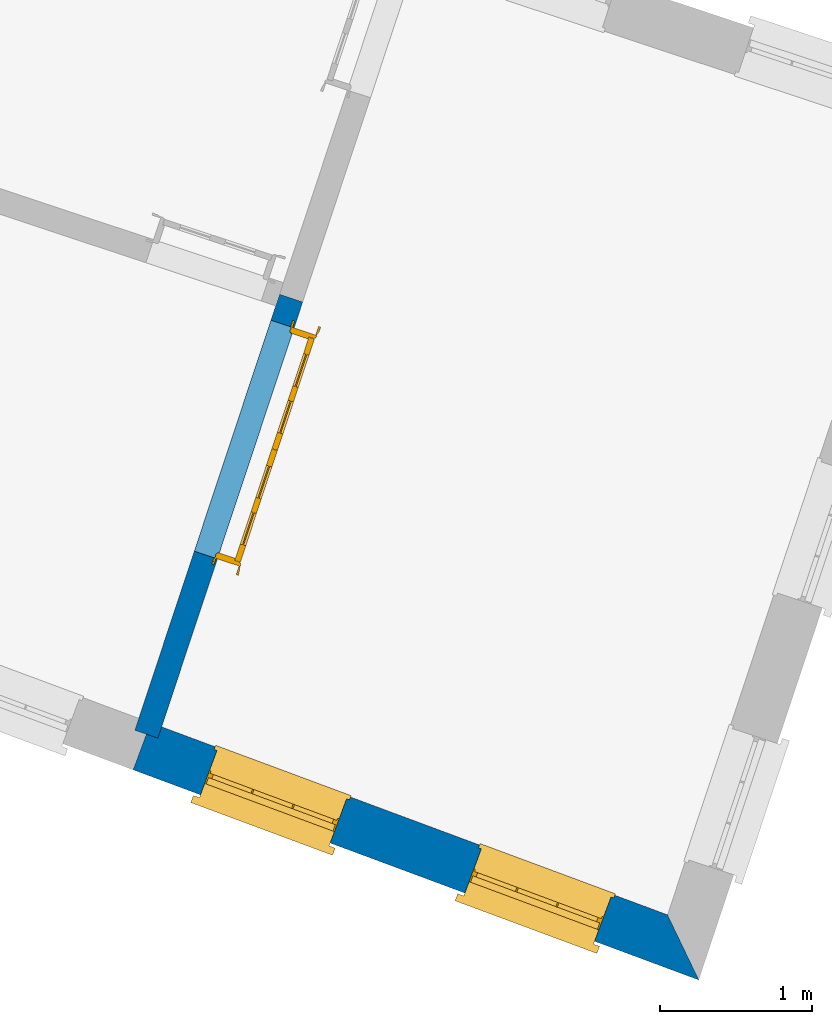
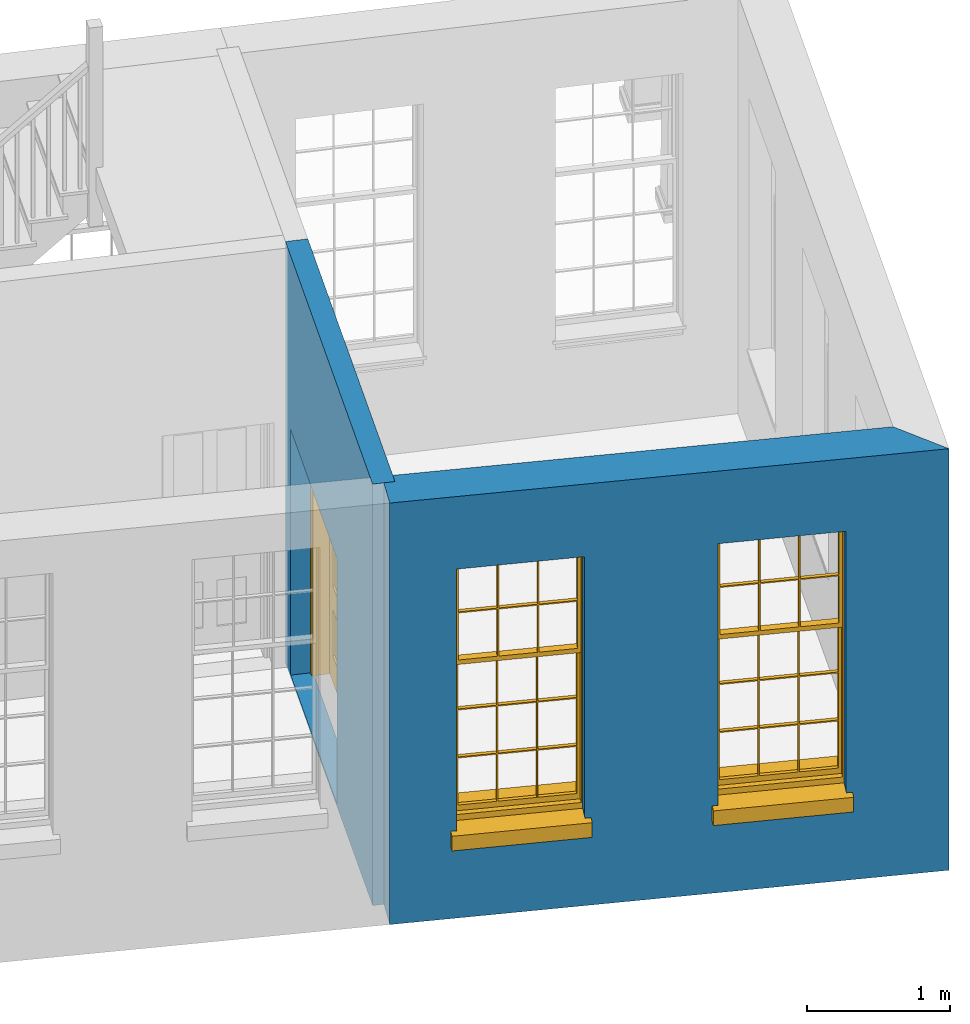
# One storey, part 2 of 6: 2 walls, 2 windows, 1 door, 3 openings.
"""IFC4 building model written with IfcOpenShell, lengths in metres."""

from ifc_helpers import new_model, si_unit, frame, origin, origin_with_axes, place, context, subcontext, project, spatial, polyline, outline, extrude, faceted_brep, source, transform, mapped, material, layer, layer_set, layer_usage, type_object, type_shapes, element, fill, save


model = new_model("IFC4")

# Units and contexts
model_context = context("Model", 3, world=origin_with_axes())
body_context = subcontext(model_context, "Body", "Model", "MODEL_VIEW")
ifc_project = project(units=[si_unit("PLANEANGLEUNIT", "RADIAN"), si_unit("MASSUNIT", "GRAM", prefix="KILO"), si_unit("FORCEUNIT", "NEWTON", prefix="KILO"), si_unit("LENGTHUNIT", "METRE"), si_unit("AREAUNIT", "SQUARE_METRE"), si_unit("VOLUMEUNIT", "CUBIC_METRE")], contexts=[model_context, model_context])

# Sites, building, storey
site_1_placement = place(None, origin_with_axes())
site_1 = spatial("IfcSite", under=ifc_project, at=site_1_placement, Name="Tamar")
site_2_placement = place(site_1_placement, origin_with_axes())
site_2 = spatial("IfcSite", under=site_1, at=site_2_placement, Name="Site plot-18", CompositionType="ELEMENT")
building_placement = place(None, origin_with_axes())
building = spatial("IfcBuilding", under=site_2, at=building_placement, Name="Building plot-18", CompositionType="ELEMENT")
storey_placement = place(None, frame((0.0, 0.0, 26.0), z_axis=(0.0, 0.0, 1.0), x_axis=(1.0, 0.0, 0.0)))
storey = spatial("IfcBuildingStorey", under=building, at=storey_placement, Name="plot-18 0", CompositionType="ELEMENT", Elevation=26.0)

# Wall, openings, windows
ifc_material_1 = material(Name="Masonry")
ifc_layer_1 = layer(ifc_material_1, 0.33, ventilated=False)
ifc_layer_set_1 = layer_set([ifc_layer_1], Name="exterior_0.08_0.25")
ifc_layer_usage_1 = layer_usage(ifc_layer_set_1, "AXIS2", "POSITIVE", -0.25)
wall_type_1 = type_object("IfcWallType", Name="exterior_0.08_0.25", PredefinedType="SOLIDWALL", material=ifc_layer_set_1)
wall_1_placement = place(storey_placement, frame((265.565741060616, 290.234865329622, 0.0), z_axis=(0.0, 0.0, 1.0), x_axis=(0.937393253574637, -0.348272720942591, 0.0)))
wall_1 = element("IfcWall", 1, at=wall_1_placement, inside=storey, type_object=wall_type_1, material=ifc_layer_usage_1, Name="exterior", context=body_context, shape_type="SweptSolid", body=[
    extrude(outline(polyline([(3.85873691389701e-14, 0.0800000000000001), (-4.66752912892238e-14, -0.249999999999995), (3.96882548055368, -0.249999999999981), (3.62698973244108, 0.0799999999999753), (3.85873691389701e-14, 0.0800000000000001)])), origin_with_axes(), (0.0, 0.0, 1.0), 3.6),
])
opening_1_placement = place(wall_1_placement, frame((0.472464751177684, 0.0, 0.75)))
opening_1 = element("IfcOpeningElement", 2, at=opening_1_placement, cuts=wall_1, Name="My Opening", ObjectType="Opening", context=body_context, shape_type="SweptSolid", body=[
    extrude(outline(polyline([(0.0, -0.270000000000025), (0.910000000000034, -0.270000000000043), (0.910000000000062, 1.09999999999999), (2.81441536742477e-14, 1.10000000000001), (0.0, -0.270000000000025)])), origin_with_axes(), (0.0, 0.0, 1.0), 2.23),
])
opening_2_placement = place(wall_1_placement, frame((2.32739425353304, 0.0, 0.75)))
opening_2 = element("IfcOpeningElement", 3, at=opening_2_placement, cuts=wall_1, Name="My Opening", ObjectType="Opening", context=body_context, shape_type="SweptSolid", body=[
    extrude(outline(polyline([(0.0, -0.270000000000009), (0.910000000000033, -0.270000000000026), (0.910000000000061, 1.10000000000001), (2.79776202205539e-14, 1.10000000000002), (0.0, -0.270000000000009)])), origin_with_axes(), (0.0, 0.0, 1.0), 2.23),
])
window_type = type_object("IfcWindowType", Name="sash_big_taller", PartitioningType="DOUBLE_PANEL_HORIZONTAL", PredefinedType="NOTDEFINED")
shared_shape_1 = source(origin(), body_context, "Body", "Brep", [
    faceted_brep([(0.033125, 0.145, 1.385209), (0.01, 0.145, 1.385209), (0.033125, 0.145, 1.786042), (0.876875, 0.145, 1.385209), (0.876875, 0.145, 1.786042), (0.9, 0.145, 1.385209), (0.876875, 0.145, 1.796042), (0.876875, 0.145, 2.196875), (0.9, 0.145, 2.22), (0.033125, 0.145, 2.196875), (0.033125, 0.145, 1.796042), (0.01, 0.145, 2.22), (0.876875, 0.115, 1.786042), (0.876875, 0.115, 1.385209), (0.9, 0.115, 1.347084), (0.033125, 0.115, 2.196875), (0.01, 0.115, 2.22), (0.033125, 0.115, 1.796042), (0.01, 0.115, 1.347084), (0.033125, 0.115, 1.385209), (0.033125, 0.115, 1.786042), (0.876875, 0.115, 2.196875), (0.876875, 0.115, 1.796042), (0.9, 0.115, 2.22), (0.033125, 0.145, 1.347084), (0.01, 0.145, 1.347084), (0.033125, 0.145, 0.94625), (0.876875, 0.145, 1.347084), (0.876875, 0.145, 0.94625), (0.9, 0.145, 1.347084), (0.876875, 0.145, 0.52625), (0.876875, 0.145, 0.125417), (0.9, 0.145, 0.077167), (0.033125, 0.145, 0.125417), (0.033125, 0.145, 0.52625), (0.01, 0.145, 0.077167), (-0.0425, 0.0, 0.01), (-0.0425, -0.05, 0.001667), (0.0, 0.0, 0.01), (0.9525, 0.0, 0.01), (0.91, 0.0, 0.01), (0.9525, -0.05, 0.001667), (-0.02, 0.33, 0.077167), (0.0, 0.33, 0.077167), (-0.02, 0.36, 0.077167), (0.0, 0.19, 0.077167), (0.01, 0.19, 0.077167), (0.91, 0.19, 0.077167), (0.91, 0.33, 0.077167), (0.9, 0.19, 0.077167), (0.93, 0.33, 0.077167), (0.93, 0.36, 0.077167), (0.01, 0.175, 1.385209), (0.9, 0.175, 1.385209), (0.876875, 0.175, 0.125417), (0.876875, 0.175, 0.52625), (0.9, 0.175, 0.077167), (0.876875, 0.175, 0.94625), (0.876875, 0.175, 1.347084), (0.033125, 0.175, 0.125417), (0.01, 0.175, 0.077167), (0.033125, 0.175, 0.52625), (0.033125, 0.175, 1.347084), (0.033125, 0.175, 0.94625), (-0.02, 0.33, 0.052167), (-0.02, 0.36, 0.052167), (0.93, 0.36, 0.052167), (0.93, 0.33, 0.052167), (0.91, 0.33, 0.052167), (0.0, 0.33, 0.052167), (0.91, 0.1, 0.026667), (0.0, 0.1, 0.026667), (-0.0425, -0.05, -0.123333), (0.9525, -0.05, -0.123333), (-0.0425, 0.0, -0.123333), (0.9525, 0.0, -0.123333), (0.01, 0.19, 2.22), (0.9, 0.19, 2.22), (0.0, 0.19, 2.23), (0.91, 0.19, 2.23), (0.01, 0.1, 0.077167), (0.9, 0.1, 0.077167), (0.592292, 0.145, 0.125417), (0.592292, 0.175, 0.125417), (0.317708, 0.175, 0.125417), (0.317708, 0.145, 0.125417), (0.592292, 0.145, 0.53625), (0.317708, 0.145, 0.53625), (0.317708, 0.145, 0.52625), (0.592292, 0.145, 0.52625), (0.592292, 0.175, 0.53625), (0.317708, 0.175, 0.53625), (0.592292, 0.115, 1.796042), (0.592292, 0.145, 1.796042), (0.317708, 0.145, 1.796042), (0.317708, 0.115, 1.796042), (0.317708, 0.115, 1.786042), (0.592292, 0.115, 1.786042), (0.317708, 0.145, 1.786042), (0.592292, 0.145, 1.786042), (0.602292, 0.115, 1.786042), (0.592292, 0.115, 1.385209), (0.602292, 0.115, 1.385209), (0.602292, 0.145, 1.385209), (0.592292, 0.145, 1.385209), (0.602292, 0.145, 1.786042), (0.876875, 0.145, 0.53625), (0.876875, 0.175, 0.53625), (0.602292, 0.175, 0.53625), (0.602292, 0.145, 0.53625), (0.317708, 0.175, 0.52625), (0.307708, 0.175, 0.125417), (0.307708, 0.175, 0.52625), (0.602292, 0.175, 0.52625), (0.602292, 0.175, 0.125417), (0.592292, 0.175, 0.52625), (0.307708, 0.175, 0.53625), (0.033125, 0.175, 0.53625), (0.317708, 0.175, 1.347084), (0.317708, 0.175, 0.94625), (0.307708, 0.175, 0.94625), (0.307708, 0.175, 1.347084), (0.602292, 0.175, 1.347084), (0.602292, 0.175, 0.94625), (0.592292, 0.175, 0.94625), (0.592292, 0.175, 1.347084), (0.307708, 0.145, 0.52625), (0.307708, 0.145, 0.125417), (0.307708, 0.145, 0.53625), (0.033125, 0.145, 0.53625), (0.307708, 0.145, 1.347084), (0.307708, 0.145, 0.94625), (0.592292, 0.145, 1.347084), (0.592292, 0.145, 0.94625), (0.317708, 0.145, 0.94625), (0.317708, 0.145, 1.347084), (0.602292, 0.145, 0.94625), (0.602292, 0.145, 1.347084), (0.602292, 0.145, 0.52625), (0.602292, 0.145, 0.125417), (0.307708, 0.115, 1.796042), (0.307708, 0.115, 1.786042), (0.307708, 0.115, 1.385209), (0.317708, 0.115, 1.385209), (0.317708, 0.115, 2.196875), (0.307708, 0.115, 2.196875), (0.602292, 0.115, 2.196875), (0.592292, 0.115, 2.196875), (0.602292, 0.115, 1.796042), (0.602292, 0.145, 1.796042), (0.307708, 0.145, 1.796042), (0.307708, 0.145, 2.196875), (0.317708, 0.145, 2.196875), (0.592292, 0.145, 2.196875), (0.602292, 0.145, 2.196875), (0.307708, 0.145, 1.786042), (0.317708, 0.145, 1.385209), (0.307708, 0.145, 1.385209), (0.876875, 0.175, 0.93625), (0.033125, 0.175, 0.93625), (0.033125, 0.145, 0.93625), (0.876875, 0.145, 0.93625), (0.91, 0.1, 2.23), (0.9, 0.1, 2.22), (0.01, 0.1, 2.22), (0.0, 0.1, 2.23), (0.91, 0.0, 0.0), (0.0, 0.0, 0.0), (0.91, 0.33, 0.0), (0.0, 0.33, 0.0), (0.317708, 0.145, 0.93625), (0.592292, 0.145, 0.93625), (0.317708, 0.175, 0.93625), (0.307708, 0.175, 0.93625), (0.602292, 0.175, 0.93625), (0.592292, 0.175, 0.93625), (0.307708, 0.145, 0.93625), (0.602292, 0.145, 0.93625)], [[[0, 1, 2]], [[3, 4, 5]], [[6, 7, 8]], [[9, 10, 11]], [[12, 13, 14]], [[15, 16, 17]], [[18, 19, 20]], [[21, 22, 23]], [[24, 25, 26]], [[27, 28, 29]], [[30, 31, 32]], [[33, 34, 35]], [[14, 27, 29]], [[25, 24, 18]], [[36, 37, 38]], [[39, 40, 41]], [[42, 43, 44]], [[45, 46, 43]], [[47, 48, 49]], [[50, 51, 48]], [[1, 0, 52]], [[5, 53, 3]], [[54, 55, 56]], [[57, 58, 53]], [[59, 60, 61]], [[62, 63, 52]], [[48, 43, 46, 49]], [[51, 44, 43, 48]], [[64, 42, 44, 65]], [[65, 44, 51, 66]], [[66, 51, 50, 67]], [[65, 66, 68, 69]], [[60, 56, 49, 46]], [[70, 71, 38, 40]], [[37, 41, 40, 38]], [[37, 72, 73, 41]], [[74, 75, 73, 72]], [[8, 11, 76, 77]], [[76, 78, 79, 77]], [[32, 35, 80, 81]], [[81, 80, 71, 70]], [[82, 83, 84, 85]], [[86, 87, 88, 89]], [[86, 90, 91, 87]], [[92, 93, 94, 95]], [[92, 95, 96, 97]], [[96, 98, 99, 97]], [[100, 97, 101, 102]], [[103, 104, 99, 105]], [[97, 99, 104, 101]], [[102, 103, 105, 100]], [[106, 107, 108, 109]], [[110, 84, 111, 112]], [[113, 114, 83, 115]], [[116, 112, 61, 117]], [[90, 115, 110, 91]], [[118, 119, 120, 121]], [[122, 123, 124, 125]], [[113, 108, 107, 55]], [[126, 112, 111, 127]], [[34, 61, 112, 126]], [[89, 115, 83, 82]], [[88, 110, 115, 89]], [[85, 84, 110, 88]], [[128, 116, 117, 129]], [[130, 121, 120, 131]], [[132, 125, 124, 133]], [[134, 119, 118, 135]], [[136, 123, 122, 137]], [[138, 113, 55, 30]], [[139, 114, 113, 138]], [[138, 30, 106, 109]], [[88, 126, 127, 85]], [[138, 89, 82, 139]], [[137, 132, 133, 136]], [[128, 129, 34, 126]], [[135, 130, 131, 134]], [[140, 17, 20, 141]], [[96, 141, 142, 143]], [[144, 145, 140, 95]], [[146, 147, 92, 148]], [[100, 12, 22, 148]], [[149, 6, 4, 105]], [[94, 150, 151, 152]], [[149, 93, 153, 154]], [[99, 98, 94, 93]], [[155, 2, 10, 150]], [[156, 157, 155, 98]], [[141, 155, 157, 142]], [[20, 2, 155, 141]], [[143, 156, 98, 96]], [[140, 150, 10, 17]], [[145, 151, 150, 140]], [[147, 153, 93, 92]], [[95, 94, 152, 144]], [[22, 6, 149, 148]], [[148, 149, 154, 146]], [[100, 105, 4, 12]], [[109, 86, 89, 138]], [[108, 113, 115, 90]], [[91, 110, 112, 116]], [[87, 128, 126, 88]], [[97, 100, 148, 92]], [[141, 96, 95, 140]], [[98, 155, 150, 94]], [[105, 99, 93, 149]], [[143, 101, 104, 156]], [[135, 118, 125, 132]], [[144, 152, 153, 147]], [[127, 111, 59, 33]], [[15, 9, 151, 145]], [[146, 154, 7, 21]], [[31, 54, 114, 139]], [[36, 74, 72, 37]], [[39, 41, 73, 75]], [[18, 14, 101, 143]], [[23, 16, 144, 147]], [[83, 56, 60, 84]], [[52, 53, 125, 118]], [[53, 52, 156, 104]], [[11, 8, 153, 152]], [[14, 18, 135, 132]], [[2, 1, 11, 10]], [[8, 5, 4, 6]], [[57, 53, 56, 158]], [[60, 52, 63, 159]], [[26, 25, 35, 160]], [[32, 29, 28, 161]], [[14, 23, 22, 12]], [[18, 20, 17, 16]], [[19, 0, 2, 20]], [[17, 10, 9, 15]], [[12, 4, 3, 13]], [[21, 7, 6, 22]], [[27, 58, 57, 28]], [[30, 55, 54, 31]], [[33, 59, 61, 34]], [[26, 63, 62, 24]], [[5, 8, 77, 53]], [[76, 11, 1, 52]], [[46, 45, 78, 76]], [[49, 77, 79, 47]], [[70, 162, 163, 81]], [[71, 80, 164, 165]], [[19, 142, 157, 0]], [[102, 13, 3, 103]], [[121, 130, 24, 62]], [[29, 32, 81, 14]], [[80, 35, 25, 18]], [[60, 46, 76, 52]], [[77, 49, 56, 53]], [[23, 14, 81, 163]], [[16, 164, 80, 18]], [[35, 85, 127]], [[127, 33, 35]], [[139, 82, 32]], [[32, 31, 139]], [[32, 82, 85, 35]], [[102, 101, 14]], [[14, 13, 102]], [[18, 143, 142]], [[142, 19, 18]], [[146, 21, 23]], [[23, 147, 146]], [[16, 15, 145]], [[145, 144, 16]], [[11, 152, 151]], [[151, 9, 11]], [[154, 153, 8]], [[8, 7, 154]], [[23, 163, 164, 16]], [[162, 165, 164, 163]], [[52, 118, 121]], [[121, 62, 52]], [[125, 53, 122]], [[58, 122, 53]], [[27, 137, 122, 58]], [[56, 83, 114]], [[114, 54, 56]], [[111, 84, 60]], [[60, 59, 111]], [[137, 27, 14]], [[14, 132, 137]], [[130, 135, 18]], [[18, 24, 130]], [[157, 156, 52]], [[52, 0, 157]], [[103, 3, 53]], [[53, 104, 103]], [[79, 78, 165, 162]], [[78, 45, 71, 165]], [[162, 70, 47, 79]], [[166, 75, 74, 167]], [[68, 66, 67]], [[48, 68, 67, 50]], [[69, 64, 65]], [[42, 64, 69, 43]], [[69, 68, 168, 169]], [[70, 68, 48, 47]], [[166, 168, 68, 70]], [[43, 69, 71, 45]], [[69, 169, 167, 71]], [[168, 166, 167, 169]], [[38, 167, 74, 36]], [[71, 167, 38]], [[39, 75, 166, 40]], [[40, 166, 70]], [[133, 134, 170, 171]], [[133, 124, 119, 134]], [[28, 57, 123, 136]], [[172, 91, 116, 173]], [[174, 108, 90, 175]], [[120, 173, 159, 63]], [[124, 175, 172, 119]], [[174, 123, 57, 158]], [[176, 173, 116, 128]], [[160, 159, 173, 176]], [[171, 175, 90, 86]], [[170, 172, 175, 171]], [[87, 91, 172, 170]], [[131, 120, 63, 26]], [[177, 174, 158, 161]], [[109, 108, 174, 177]], [[177, 161, 28, 136]], [[170, 176, 128, 87]], [[177, 171, 86, 109]], [[131, 26, 160, 176]], [[136, 133, 171, 177]], [[123, 174, 175, 124]], [[119, 172, 173, 120]], [[134, 131, 176, 170]], [[129, 117, 159, 160]], [[161, 158, 107, 106]], [[35, 34, 129]], [[35, 129, 160]], [[32, 106, 30]], [[32, 161, 106]], [[56, 55, 107]], [[56, 107, 158]], [[60, 117, 61]], [[60, 159, 117]]]),
])
type_shapes(window_type, [shared_shape_1])
window_1_placement = place(storey_placement, frame((265.914592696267, 289.817222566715, 0.75), z_axis=(0.0, 0.0, 1.0), x_axis=(0.853027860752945, -0.316928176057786, 0.0)))
window_1 = element("IfcWindow", 4, at=window_1_placement, inside=storey, type_object=window_type, Name="living street window", OverallHeight=2.23, OverallWidth=0.91, context=body_context, shape_type="MappedRepresentation", body=[
    mapped(shared_shape_1, transform((0.0, 0.0, 0.0), scale=1.0)),
])
fill(opening_1, window_1)
window_2_placement = place(storey_placement, frame((267.653391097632, 289.171201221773, 0.75), z_axis=(0.0, 0.0, 1.0), x_axis=(0.853027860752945, -0.316928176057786, 0.0)))
window_2 = element("IfcWindow", 5, at=window_2_placement, inside=storey, type_object=window_type, Name="living street window", OverallHeight=2.23, OverallWidth=0.91, context=body_context, shape_type="MappedRepresentation", body=[
    mapped(shared_shape_1, transform((0.0, 0.0, 0.0), scale=1.0)),
])
fill(opening_2, window_2)

# Wall, opening, door
ifc_material_2 = material(Name="Masonry")
ifc_layer_2 = layer(ifc_material_2, 0.16, ventilated=False)
ifc_layer_set_2 = layer_set([ifc_layer_2], Name="interior_0.08_0.08")
ifc_layer_usage_2 = layer_usage(ifc_layer_set_2, "AXIS2", "POSITIVE", -0.08)
wall_type_2 = type_object("IfcWallType", Name="interior_0.08_0.08", PredefinedType="SOLIDWALL", material=ifc_layer_set_2)
wall_2_placement = place(storey_placement, frame((266.51771859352, 293.102772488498, 0.0), z_axis=(0.0, 0.0, 1.0), x_axis=(-0.315038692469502, -0.949078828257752, 0.0)))
wall_2 = element("IfcWall", 6, at=wall_2_placement, inside=storey, type_object=wall_type_2, material=ifc_layer_usage_2, Name="interior", context=body_context, shape_type="SweptSolid", body=[
    extrude(outline(polyline([(1.27412785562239e-16, 0.0799999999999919), (-1.72737096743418e-16, -0.0799999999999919), (3.02177972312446, -0.0799999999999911), (3.02177972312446, 0.0799999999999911), (1.27412785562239e-16, 0.0799999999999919)])), origin_with_axes(), (0.0, 0.0, 1.0), 3.6),
])
opening_3_placement = place(wall_2_placement, frame((0.180000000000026, 0.0, 0.0199999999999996)))
opening_3 = element("IfcOpeningElement", 7, at=opening_3_placement, cuts=wall_2, Name="My Opening", ObjectType="Opening", context=body_context, shape_type="SweptSolid", body=[
    extrude(outline(polyline([(0.0, -0.0999999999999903), (1.60000000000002, -0.0999999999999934), (1.59999999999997, 1.10000000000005), (-5.11257702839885e-14, 1.10000000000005), (0.0, -0.0999999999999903)])), origin_with_axes(), (0.0, 0.0, 1.0), 2.1),
])
door_type = type_object("IfcDoorType", Name="door_inside_double", OperationType="SINGLE_SWING_LEFT", PredefinedType="NOTDEFINED")
shared_shape_2 = source(origin(), body_context, "Body", "Brep", [
    faceted_brep([(0.14, 0.307, 1.895), (0.14, 0.307, 0.82), (0.363, 0.307, 0.82), (0.363, 0.307, 1.895), (0.14, 0.292, 1.895), (0.14, 0.292, 0.82), (0.363, 0.292, 0.82), (0.363, 0.292, 1.895), (0.027, 0.292, 1.895), (0.027, 0.292, 0.82), (0.363, 0.292, 0.62), (0.14, 0.292, 0.62), (0.463, 0.292, 0.82), (0.463, 0.292, 1.895), (0.363, 0.292, 2.073), (0.14, 0.292, 2.073), (0.027, 0.292, 2.073), (0.027, 0.33, 1.895), (0.027, 0.33, 0.82), (0.027, 0.292, 0.62), (0.463, 0.292, 0.62), (0.14, 0.307, 0.62), (0.363, 0.307, 0.62), (0.463, 0.307, 0.82), (0.463, 0.307, 1.895), (0.463, 0.292, 2.073), (0.14, 0.33, 2.073), (0.363, 0.33, 2.073), (0.027, 0.33, 2.073), (0.14, 0.33, 1.895), (0.14, 0.33, 0.82), (0.027, 0.33, 0.62), (0.027, 0.292, 0.225), (0.14, 0.292, 0.225), (0.363, 0.292, 0.225), (0.463, 0.292, 0.225), (0.686, 0.292, 0.62), (0.686, 0.292, 0.82), (0.14, 0.307, 0.225), (0.363, 0.307, 0.225), (0.686, 0.307, 0.82), (0.686, 0.307, 1.895), (0.686, 0.292, 1.895), (0.686, 0.292, 2.073), (0.463, 0.33, 2.073), (0.363, 0.33, 1.895), (0.14, 0.315, 1.895), (0.14, 0.315, 0.82), (0.14, 0.33, 0.62), (0.027, 0.33, 0.225), (0.027, 0.292, 0.0), (0.14, 0.292, 0.0), (0.363, 0.292, 0.0), (0.463, 0.292, 0.0), (0.463, 0.307, 0.225), (0.463, 0.307, 0.62), (0.686, 0.307, 0.62), (0.799, 0.292, 0.62), (0.799, 0.292, 0.82), (0.799, 0.292, 1.895), (0.799, 0.292, 2.073), (0.686, 0.33, 2.073), (0.463, 0.33, 1.895), (0.363, 0.315, 1.895), (0.363, 0.315, 0.82), (0.363, 0.33, 0.82), (0.363, 0.33, 0.62), (0.14, 0.33, 0.225), (0.027, 0.33, 0.0), (0.14, 0.33, 0.0), (0.363, 0.33, 0.0), (0.463, 0.33, 0.0), (0.686, 0.292, 0.0), (0.686, 0.292, 0.225), (0.686, 0.307, 0.225), (0.799, 0.292, 0.225), (0.799, 0.33, 0.62), (0.799, 0.33, 0.82), (0.799, 0.33, 1.895), (0.799, 0.33, 2.073), (0.686, 0.33, 1.895), (0.463, 0.33, 0.82), (0.463, 0.33, 0.62), (0.363, 0.315, 0.62), (0.14, 0.315, 0.62), (0.14, 0.315, 0.225), (0.363, 0.33, 0.225), (0.463, 0.33, 0.225), (0.686, 0.33, 0.0), (0.799, 0.292, 0.0), (0.799, 0.33, 0.225), (0.686, 0.33, 0.62), (0.686, 0.33, 0.82), (0.686, 0.315, 1.895), (0.463, 0.315, 1.895), (0.463, 0.315, 0.82), (0.363, 0.315, 0.225), (0.686, 0.33, 0.225), (0.799, 0.33, 0.0), (0.686, 0.315, 0.82), (0.463, 0.315, 0.62), (0.463, 0.315, 0.225), (0.686, 0.315, 0.62), (0.686, 0.315, 0.225), (1.46, 0.33, 1.895), (1.237, 0.33, 1.895), (1.237, 0.33, 2.073), (1.46, 0.33, 2.073), (1.46, 0.315, 1.895), (1.237, 0.315, 1.895), (1.137, 0.33, 1.895), (1.137, 0.33, 2.073), (1.237, 0.292, 2.073), (1.46, 0.292, 2.073), (1.573, 0.33, 1.895), (1.573, 0.33, 2.073), (1.46, 0.33, 0.82), (1.46, 0.315, 0.82), (1.237, 0.315, 0.82), (1.237, 0.33, 0.82), (1.137, 0.33, 0.82), (0.914, 0.33, 2.073), (0.914, 0.33, 1.895), (1.137, 0.292, 2.073), (1.237, 0.292, 1.895), (1.46, 0.292, 1.895), (1.573, 0.292, 2.073), (1.573, 0.33, 0.82), (1.573, 0.292, 1.895), (1.237, 0.33, 0.62), (1.137, 0.33, 0.62), (1.137, 0.315, 0.82), (1.137, 0.315, 1.895), (0.914, 0.292, 2.073), (0.914, 0.315, 1.895), (0.801, 0.33, 2.073), (0.801, 0.33, 1.895), (1.137, 0.292, 1.895), (1.237, 0.307, 1.895), (1.46, 0.307, 1.895), (1.573, 0.292, 0.82), (1.573, 0.33, 0.62), (1.46, 0.33, 0.62), (1.237, 0.33, 0.225), (1.137, 0.33, 0.225), (0.914, 0.33, 0.82), (0.914, 0.33, 0.62), (0.914, 0.315, 0.82), (0.801, 0.292, 2.073), (0.914, 0.292, 1.895), (0.801, 0.33, 0.82), (0.801, 0.292, 1.895), (1.137, 0.292, 0.82), (1.237, 0.292, 0.82), (1.237, 0.307, 0.82), (1.46, 0.307, 0.82), (1.46, 0.292, 0.82), (1.573, 0.292, 0.62), (1.573, 0.33, 0.225), (1.46, 0.33, 0.225), (1.46, 0.315, 0.62), (1.237, 0.315, 0.62), (1.237, 0.33, 0.0), (1.137, 0.33, 0.0), (1.137, 0.315, 0.225), (1.137, 0.315, 0.62), (1.237, 0.315, 0.225), (0.914, 0.315, 0.62), (0.801, 0.33, 0.62), (0.914, 0.307, 1.895), (1.137, 0.307, 1.895), (0.801, 0.292, 0.82), (1.137, 0.292, 0.62), (1.237, 0.292, 0.62), (1.137, 0.307, 0.82), (1.46, 0.292, 0.62), (1.573, 0.292, 0.225), (1.573, 0.33, 0.0), (1.46, 0.33, 0.0), (1.46, 0.315, 0.225), (1.237, 0.292, 0.0), (1.137, 0.292, 0.0), (0.914, 0.33, 0.225), (0.914, 0.33, 0.0), (0.914, 0.315, 0.225), (0.801, 0.33, 0.225), (0.801, 0.292, 0.62), (0.914, 0.292, 0.82), (0.914, 0.307, 0.82), (1.137, 0.292, 0.225), (1.237, 0.292, 0.225), (0.914, 0.292, 0.62), (1.46, 0.292, 0.225), (1.573, 0.292, 0.0), (1.46, 0.292, 0.0), (0.914, 0.292, 0.0), (0.801, 0.33, 0.0), (0.801, 0.292, 0.225), (1.237, 0.307, 0.225), (1.237, 0.307, 0.62), (1.137, 0.307, 0.62), (1.137, 0.307, 0.225), (1.46, 0.307, 0.62), (0.914, 0.307, 0.62), (1.46, 0.307, 0.225), (0.914, 0.292, 0.225), (0.801, 0.292, 0.0), (0.914, 0.307, 0.225), (0.02, 0.335, 0.0), (0.005, 0.34, 0.0), (0.005, 0.34, 2.095), (0.02, 0.335, 2.08), (0.02, 0.33, 0.0), (0.0, 0.335, 0.0), (0.0, 0.335, 2.1), (1.595, 0.34, 2.095), (1.58, 0.335, 2.08), (0.02, 0.33, 2.08), (0.0, 0.33, 0.0), (-0.032, 0.345, 0.0), (-0.032, 0.345, 2.132), (1.6, 0.335, 2.1), (1.595, 0.34, 0.0), (1.58, 0.335, 0.0), (1.58, 0.33, 2.08), (0.025, 0.33, 0.0), (0.025, 0.33, 2.075), (-0.04, 0.34, 0.0), (0.025, 0.29, 0.0), (0.0, 0.17, 0.0), (-0.04, 0.34, 2.14), (1.632, 0.345, 2.132), (1.6, 0.335, 0.0), (1.58, 0.33, 0.0), (1.575, 0.33, 2.075), (0.025, 0.29, 2.075), (-0.06, 0.33, 0.0), (0.035, 0.17, 0.0), (0.0, 0.17, 2.1), (0.0, 0.33, 2.1), (-0.04, 0.345, 0.0), (-0.04, 0.345, 2.14), (1.64, 0.34, 2.14), (1.632, 0.345, 0.0), (1.6, 0.33, 0.0), (1.575, 0.33, 0.0), (1.575, 0.29, 2.075), (0.04, 0.29, 0.0), (0.04, 0.29, 2.06), (-0.06, 0.345, 0.0), (-0.06, 0.33, 2.16), (0.015, 0.165, 0.0), (0.04, 0.17, 0.0), (-0.045, 0.17, 2.145), (-0.045, 0.17, 0.0), (1.6, 0.17, 2.1), (1.6, 0.33, 2.1), (-0.06, 0.345, 2.16), (1.64, 0.345, 2.14), (1.64, 0.34, 0.0), (1.6, 0.17, 0.0), (1.575, 0.29, 0.0), (1.56, 0.29, 2.06), (0.04, 0.17, 2.06), (1.66, 0.33, 2.16), (-0.017, 0.155, 0.0), (-0.025, 0.16, 0.0), (0.02, 0.16, 0.0), (0.035, 0.165, 0.0), (0.035, 0.17, 2.065), (1.645, 0.17, 2.145), (-0.045, 0.155, 2.145), (-0.045, 0.155, 0.0), (1.66, 0.345, 2.16), (1.64, 0.345, 0.0), (1.66, 0.33, 0.0), (1.565, 0.17, 0.0), (1.56, 0.29, 0.0), (1.56, 0.17, 2.06), (-0.017, 0.155, 2.117), (-0.025, 0.16, 2.125), (0.015, 0.165, 2.085), (0.02, 0.16, 2.08), (0.035, 0.165, 2.065), (1.565, 0.17, 2.065), (1.645, 0.17, 0.0), (1.645, 0.155, 2.145), (-0.025, 0.155, 0.0), (1.66, 0.345, 0.0), (1.585, 0.165, 0.0), (1.56, 0.17, 0.0), (1.617, 0.155, 2.117), (1.625, 0.16, 2.125), (-0.025, 0.155, 2.125), (1.585, 0.165, 2.085), (1.58, 0.16, 2.08), (1.565, 0.165, 2.065), (1.625, 0.16, 0.0), (1.645, 0.155, 0.0), (1.625, 0.155, 2.125), (1.617, 0.155, 0.0), (1.565, 0.165, 0.0), (1.58, 0.16, 0.0), (1.625, 0.155, 0.0)], [[[0, 1, 2, 3]], [[1, 0, 4, 5]], [[2, 1, 5, 6]], [[6, 7, 3, 2]], [[7, 4, 0, 3]], [[4, 8, 9, 5]], [[10, 6, 5, 11]], [[6, 12, 13, 7]], [[14, 15, 4, 7]], [[15, 16, 8, 4]], [[9, 8, 17, 18]], [[5, 9, 19, 11]], [[10, 20, 12, 6]], [[10, 11, 21, 22]], [[13, 12, 23, 24]], [[7, 13, 25, 14]], [[26, 15, 14, 27]], [[28, 16, 15, 26]], [[8, 16, 28, 17]], [[17, 29, 30, 18]], [[18, 31, 19, 9]], [[11, 19, 32, 33]], [[34, 35, 20, 10]], [[20, 36, 37, 12]], [[11, 33, 38, 21]], [[39, 22, 21, 38]], [[34, 10, 22, 39]], [[12, 37, 40, 23]], [[24, 23, 40, 41]], [[42, 13, 24, 41]], [[13, 42, 43, 25]], [[14, 25, 44, 27]], [[26, 27, 45, 29]], [[28, 26, 29, 17]], [[30, 29, 46, 47]], [[18, 30, 48, 31]], [[31, 49, 32, 19]], [[33, 32, 50, 51]], [[52, 53, 35, 34]], [[20, 35, 54, 55]], [[36, 20, 55, 56]], [[36, 57, 58, 37]], [[33, 34, 39, 38]], [[37, 42, 41, 40]], [[42, 59, 60, 43]], [[44, 25, 43, 61]], [[62, 45, 27, 44]], [[29, 45, 63, 46]], [[46, 63, 64, 47]], [[65, 30, 47, 64]], [[30, 65, 66, 48]], [[31, 48, 67, 49]], [[68, 50, 32, 49]], [[68, 69, 51, 50]], [[34, 33, 51, 52]], [[53, 52, 70, 71]], [[53, 72, 73, 35]], [[35, 73, 74, 54]], [[55, 54, 74, 56]], [[73, 36, 56, 74]], [[73, 75, 57, 36]], [[57, 76, 77, 58]], [[37, 58, 59, 42]], [[78, 79, 60, 59]], [[60, 79, 61, 43]], [[80, 62, 44, 61]], [[81, 65, 45, 62]], [[45, 65, 64, 63]], [[82, 66, 65, 81]], [[48, 66, 83, 84]], [[67, 48, 84, 85]], [[49, 67, 69, 68]], [[52, 51, 69, 70]], [[71, 70, 86, 87]], [[72, 53, 71, 88]], [[72, 89, 75, 73]], [[75, 90, 76, 57]], [[76, 91, 92, 77]], [[78, 59, 58, 77]], [[78, 80, 61, 79]], [[62, 80, 93, 94]], [[81, 62, 94, 95]], [[87, 86, 66, 82]], [[91, 82, 81, 92]], [[66, 86, 96, 83]], [[84, 83, 96, 85]], [[86, 67, 85, 96]], [[67, 86, 70, 69]], [[88, 71, 87, 97]], [[89, 72, 88, 98]], [[89, 98, 90, 75]], [[90, 97, 91, 76]], [[80, 78, 77, 92]], [[80, 92, 99, 93]], [[99, 95, 94, 93]], [[92, 81, 95, 99]], [[87, 82, 100, 101]], [[82, 91, 102, 100]], [[97, 87, 101, 103]], [[98, 88, 97, 90]], [[91, 97, 103, 102]], [[103, 101, 100, 102]], [[104, 105, 106, 107]], [[105, 104, 108, 109]], [[105, 110, 111, 106]], [[106, 112, 113, 107]], [[114, 104, 107, 115]], [[104, 116, 117, 108]], [[117, 118, 109, 108]], [[119, 105, 109, 118]], [[119, 120, 110, 105]], [[121, 111, 110, 122]], [[123, 112, 106, 111]], [[124, 125, 113, 112]], [[126, 115, 107, 113]], [[104, 114, 127, 116]], [[114, 115, 126, 128]], [[116, 119, 118, 117]], [[129, 130, 120, 119]], [[110, 120, 131, 132]], [[121, 133, 123, 111]], [[122, 110, 132, 134]], [[135, 121, 122, 136]], [[137, 124, 112, 123]], [[125, 124, 138, 139]], [[125, 128, 126, 113]], [[114, 128, 140, 127]], [[141, 142, 116, 127]], [[142, 129, 119, 116]], [[143, 144, 130, 129]], [[145, 120, 130, 146]], [[120, 145, 147, 131]], [[134, 132, 131, 147]], [[135, 148, 133, 121]], [[123, 133, 149, 137]], [[145, 122, 134, 147]], [[136, 122, 145, 150]], [[151, 148, 135, 136]], [[152, 153, 124, 137]], [[124, 153, 154, 138]], [[138, 154, 155, 139]], [[156, 125, 139, 155]], [[156, 140, 128, 125]], [[157, 141, 127, 140]], [[158, 159, 142, 141]], [[129, 142, 160, 161]], [[162, 163, 144, 143]], [[130, 144, 164, 165]], [[143, 129, 161, 166]], [[146, 130, 165, 167]], [[150, 145, 146, 168]], [[133, 148, 151, 149]], [[137, 149, 169, 170]], [[171, 151, 136, 150]], [[172, 173, 153, 152]], [[152, 137, 170, 174]], [[153, 156, 155, 154]], [[175, 157, 140, 156]], [[176, 158, 141, 157]], [[177, 178, 159, 158]], [[142, 159, 179, 160]], [[179, 166, 161, 160]], [[180, 181, 163, 162]], [[182, 144, 163, 183]], [[178, 162, 143, 159]], [[144, 182, 184, 164]], [[167, 165, 164, 184]], [[159, 143, 166, 179]], [[182, 146, 167, 184]], [[168, 146, 182, 185]], [[150, 168, 186, 171]], [[149, 151, 171, 187]], [[149, 187, 188, 169]], [[169, 188, 174, 170]], [[189, 190, 173, 172]], [[173, 175, 156, 153]], [[172, 152, 187, 191]], [[187, 152, 174, 188]], [[192, 176, 157, 175]], [[193, 177, 158, 176]], [[193, 194, 178, 177]], [[181, 180, 190, 189]], [[181, 195, 183, 163]], [[194, 180, 162, 178]], [[185, 182, 183, 196]], [[168, 185, 197, 186]], [[187, 171, 186, 191]], [[173, 190, 198, 199]], [[189, 172, 200, 201]], [[175, 173, 199, 202]], [[172, 191, 203, 200]], [[194, 193, 176, 192]], [[192, 175, 202, 204]], [[180, 194, 192, 190]], [[189, 205, 195, 181]], [[196, 183, 195, 206]], [[196, 206, 197, 185]], [[191, 186, 197, 205]], [[190, 192, 204, 198]], [[199, 198, 204, 202]], [[201, 200, 203, 207]], [[205, 189, 201, 207]], [[191, 205, 207, 203]], [[205, 197, 206, 195]], [[208, 209, 210, 211]], [[208, 212, 213, 209]], [[209, 213, 214, 210]], [[211, 210, 215, 216]], [[211, 217, 212, 208]], [[218, 213, 212]], [[213, 219, 220, 214]], [[210, 214, 221, 215]], [[216, 215, 222, 223]], [[217, 211, 216, 224]], [[225, 212, 217, 226]], [[219, 213, 218, 227]], [[218, 212, 228, 229]], [[219, 227, 230, 220]], [[214, 220, 231, 221]], [[215, 221, 232, 222]], [[222, 232, 233, 223]], [[224, 216, 223, 233]], [[226, 217, 224, 234]], [[225, 228, 212]], [[235, 228, 225, 226]], [[236, 227, 218]], [[237, 229, 228]], [[229, 238, 239, 218]], [[227, 240, 241, 230]], [[220, 230, 242, 231]], [[221, 231, 243, 232]], [[244, 233, 232]], [[234, 224, 233, 245]], [[246, 235, 226, 234]], [[247, 228, 235, 248]], [[240, 227, 236, 249]], [[239, 250, 236, 218]], [[251, 229, 237]], [[252, 237, 228, 247]], [[253, 238, 229, 254]], [[238, 255, 256, 239]], [[241, 240, 257]], [[230, 241, 258, 242]], [[231, 242, 259, 243]], [[259, 244, 232, 243]], [[260, 261, 233, 244]], [[245, 233, 261]], [[261, 246, 234, 245]], [[248, 235, 246, 262]], [[248, 263, 252, 247]], [[250, 257, 249, 236]], [[240, 249, 257]], [[256, 264, 250, 239]], [[265, 266, 229, 251]], [[267, 251, 237, 268]], [[263, 269, 237, 252]], [[270, 255, 238, 253]], [[229, 266, 254]], [[271, 253, 254, 272]], [[256, 255, 260, 244]], [[273, 241, 257]], [[273, 258, 241]], [[242, 258, 274, 259]], [[275, 244, 259]], [[260, 276, 261]], [[261, 277, 262, 246]], [[262, 278, 263, 248]], [[264, 273, 257, 250]], [[244, 275, 264, 256]], [[266, 265, 279, 280]], [[265, 251, 281, 279]], [[251, 267, 282, 281]], [[269, 283, 268, 237]], [[267, 268, 283, 282]], [[278, 284, 269, 263]], [[285, 260, 255, 270]], [[286, 270, 253, 271]], [[272, 254, 266, 287]], [[271, 272, 287]], [[273, 274, 258]], [[288, 275, 259, 274]], [[276, 260, 289]], [[277, 261, 276, 290]], [[278, 262, 277, 290]], [[275, 288, 273, 264]], [[280, 279, 291, 292]], [[287, 266, 280, 293]], [[279, 281, 294, 291]], [[281, 282, 295, 294]], [[284, 296, 283, 269]], [[282, 283, 296, 295]], [[290, 276, 284, 278]], [[285, 297, 260]], [[298, 285, 270, 286]], [[299, 286, 271]], [[271, 287, 293]], [[273, 288, 274]], [[300, 289, 260, 297]], [[301, 276, 289, 302]], [[292, 291, 300, 297]], [[293, 280, 292, 299]], [[291, 294, 289, 300]], [[294, 295, 302, 289]], [[296, 284, 276, 301]], [[295, 296, 301, 302]], [[303, 297, 285, 298]], [[299, 298, 286]], [[271, 293, 299]], [[299, 292, 297, 303]], [[299, 303, 298]]]),
])
type_shapes(door_type, [shared_shape_2])
door_placement = place(storey_placement, frame((266.36610374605, 292.963442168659, 0.0199999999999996), z_axis=(0.0, 0.0, 1.0), x_axis=(-0.504061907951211, -1.51852612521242, 0.0)))
door = element("IfcDoor", 8, at=door_placement, inside=storey, type_object=door_type, Name="kitchen living inside door", OverallHeight=2.1, OverallWidth=1.6, context=body_context, shape_type="MappedRepresentation", body=[
    mapped(shared_shape_2, transform((0.0, 0.0, 0.0), scale=1.0)),
])
fill(opening_3, door)

save(model, "model.ifc")
